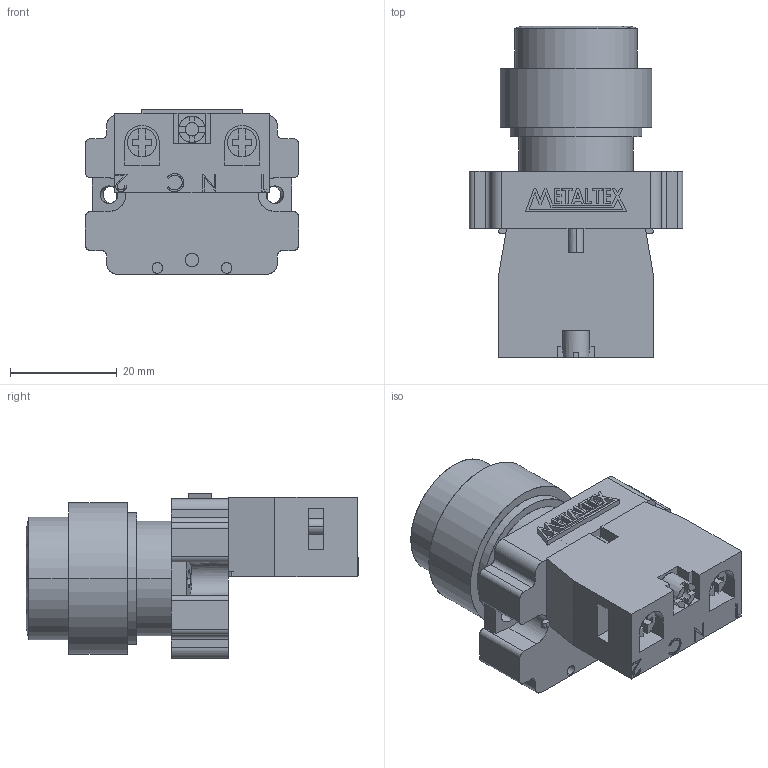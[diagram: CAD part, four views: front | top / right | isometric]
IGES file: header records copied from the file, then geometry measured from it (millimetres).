
Start section: SolidWorks IGES file using analytic representation for surfaces
Global section: file name: D:\X - Arquivos\PROEX\Empresas\P11 - METALTEX\01 - Produtos\IGES\6ª remessa\1ª etapa\M20ARR-R-1B.IGS; native system: SolidWorks 2012; preprocessor: SolidWorks 2012; author: Usuario; date: 190125.145355; units: millimetre
Bounding box: 40 x 62.27 x 30.9 mm (x, y, z)
Surface area: 11709.8 mm2 (no closed solid volume)
Topology: 0 solids, 0 shells, 343 faces, 3780 edges, 3778 vertices
Faces by surface type: bspline 274, revolution 69
